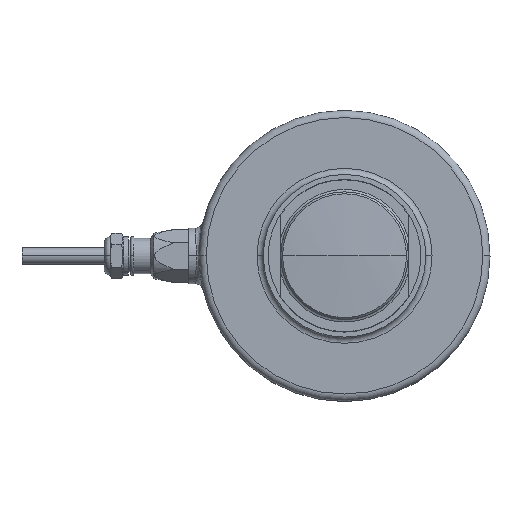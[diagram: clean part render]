
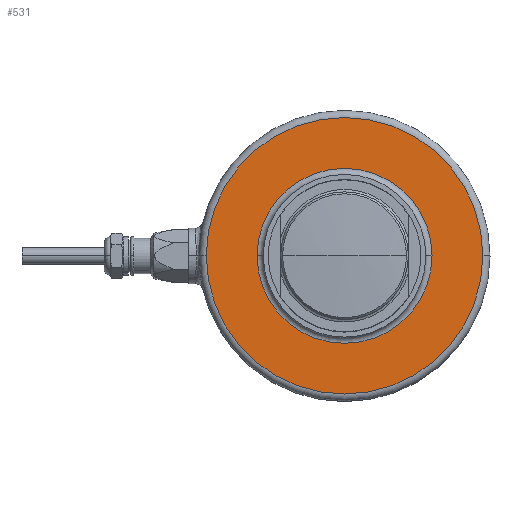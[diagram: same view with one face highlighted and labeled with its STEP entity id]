
A CAD part, top view. The second image highlights one B-rep face of the part: STEP entity #531.
In plain terms, the highlighted planar face has unit normal (0, 0, 1).
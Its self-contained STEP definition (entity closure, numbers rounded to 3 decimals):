
#132 = CIRCLE ( 'NONE', #1497, 67.15 ) ;
#531 = ADVANCED_FACE ( 'NONE', ( #590, #3917 ), #5059, .T. ) ;
#590 = FACE_OUTER_BOUND ( 'NONE', #1886, .T. ) ;
#701 = ORIENTED_EDGE ( 'NONE', *, *, #1370, .T. ) ;
#780 = CARTESIAN_POINT ( 'NONE',  ( -35.577, -19.303, 166.218 ) ) ;
#955 = VERTEX_POINT ( 'NONE', #780 ) ;
#984 = DIRECTION ( 'NONE',  ( 1., 0., 0. ) ) ;
#1009 = CARTESIAN_POINT ( 'NONE',  ( 6.923, -19.303, 166.218 ) ) ;
#1057 = DIRECTION ( 'NONE',  ( 1., 0., 0. ) ) ;
#1317 = ORIENTED_EDGE ( 'NONE', *, *, #2193, .T. ) ;
#1370 = EDGE_CURVE ( 'NONE', #5143, #1437, #4197, .T. ) ;
#1437 = VERTEX_POINT ( 'NONE', #2035 ) ;
#1493 = DIRECTION ( 'NONE',  ( 1., 0., 0. ) ) ;
#1497 = AXIS2_PLACEMENT_3D ( 'NONE', #4719, #3134, #1057 ) ;
#1886 = EDGE_LOOP ( 'NONE', ( #2749, #701 ) ) ;
#1971 = EDGE_CURVE ( 'NONE', #955, #2699, #3133, .T. ) ;
#2035 = CARTESIAN_POINT ( 'NONE',  ( 74.073, -19.303, 166.218 ) ) ;
#2124 = EDGE_CURVE ( 'NONE', #1437, #5143, #132, .T. ) ;
#2193 = EDGE_CURVE ( 'NONE', #2699, #955, #2283, .T. ) ;
#2283 = CIRCLE ( 'NONE', #3906, 42.5 ) ;
#2332 = DIRECTION ( 'NONE',  ( 0., 0., -1. ) ) ;
#2356 = AXIS2_PLACEMENT_3D ( 'NONE', #3223, #2332, #2677 ) ;
#2388 = ORIENTED_EDGE ( 'NONE', *, *, #1971, .T. ) ;
#2408 = DIRECTION ( 'NONE',  ( 0., 0., -1. ) ) ;
#2417 = EDGE_LOOP ( 'NONE', ( #1317, #2388 ) ) ;
#2539 = CARTESIAN_POINT ( 'NONE',  ( -60.227, -19.303, 166.218 ) ) ;
#2677 = DIRECTION ( 'NONE',  ( 1., 0., 0. ) ) ;
#2699 = VERTEX_POINT ( 'NONE', #5103 ) ;
#2749 = ORIENTED_EDGE ( 'NONE', *, *, #2124, .T. ) ;
#3014 = AXIS2_PLACEMENT_3D ( 'NONE', #4380, #4754, #1493 ) ;
#3095 = DIRECTION ( 'NONE',  ( 0., 0., 1. ) ) ;
#3133 = CIRCLE ( 'NONE', #2356, 42.5 ) ;
#3134 = DIRECTION ( 'NONE',  ( 0., 0., 1. ) ) ;
#3223 = CARTESIAN_POINT ( 'NONE',  ( 6.923, -19.303, 166.218 ) ) ;
#3350 = AXIS2_PLACEMENT_3D ( 'NONE', #1009, #3095, #984 ) ;
#3906 = AXIS2_PLACEMENT_3D ( 'NONE', #4114, #2408, #4488 ) ;
#3917 = FACE_BOUND ( 'NONE', #2417, .T. ) ;
#4114 = CARTESIAN_POINT ( 'NONE',  ( 6.923, -19.303, 166.218 ) ) ;
#4197 = CIRCLE ( 'NONE', #3014, 67.15 ) ;
#4380 = CARTESIAN_POINT ( 'NONE',  ( 6.923, -19.303, 166.218 ) ) ;
#4488 = DIRECTION ( 'NONE',  ( 1., 0., 0. ) ) ;
#4719 = CARTESIAN_POINT ( 'NONE',  ( 6.923, -19.303, 166.218 ) ) ;
#4754 = DIRECTION ( 'NONE',  ( 0., 0., 1. ) ) ;
#5059 = PLANE ( 'NONE',  #3350 ) ;
#5103 = CARTESIAN_POINT ( 'NONE',  ( 49.423, -19.303, 166.218 ) ) ;
#5143 = VERTEX_POINT ( 'NONE', #2539 ) ;
